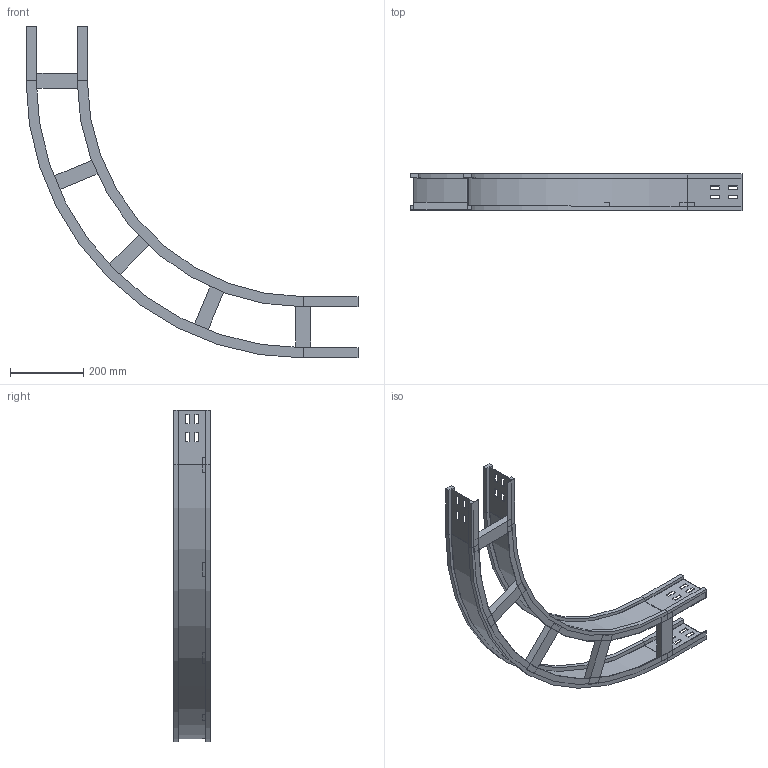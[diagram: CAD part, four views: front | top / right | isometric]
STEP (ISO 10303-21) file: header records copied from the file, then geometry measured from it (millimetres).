
FILE_DESCRIPTION (( 'STEP AP214' ), '1' );
FILE_NAME ('10S6D150.step', '2025-02-21T16:09:20', ( '' ), ( '' ), 'SwSTEP 2.0', 'SolidWorks 2023', '' );
FILE_SCHEMA (( 'AUTOMOTIVE_DESIGN' ));
Length unit declared in the file: millimetre
Products named in the file (4): TRAVERSINO_150; 10S6D150; LONGH.ESTERNO 90°_H100_R600+150; LONGH.INTERNO 90°_H100_R600
Assembly tree (7 placements, depth 2):
  10S6D150
    LONGH.INTERNO 90°_H100_R600
    LONGH.ESTERNO 90°_H100_R600+150
    TRAVERSINO_150  x5
Bounding box: 909 x 100 x 909 mm (x, y, z)
Volume: 2032534.9 mm3; surface area: 901598.8 mm2
Topology: 7 solids, 7 shells, 170 faces, 420 edges, 264 vertices
Faces by surface type: plane 158, cylinder 12
Entity records: 4493 total; most frequent: CARTESIAN_POINT 760, ORIENTED_EDGE 744, DIRECTION 708, EDGE_CURVE 372, LINE 348, VECTOR 348, VERTEX_POINT 232, AXIS2_PLACEMENT_3D 180
